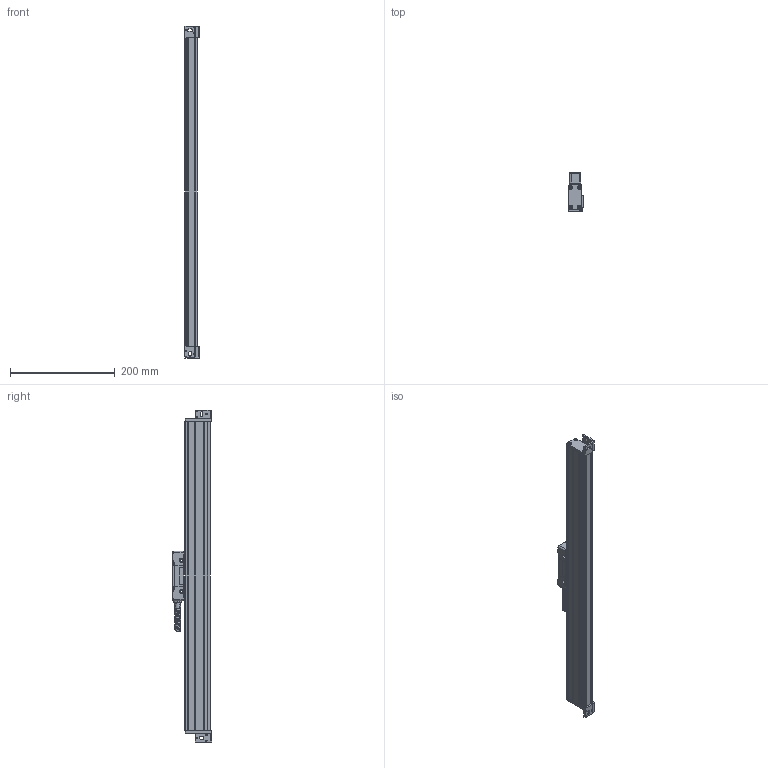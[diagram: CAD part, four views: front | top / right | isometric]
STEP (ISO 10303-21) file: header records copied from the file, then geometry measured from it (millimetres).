
FILE_DESCRIPTION (( 'STEP AP214' ), '1' );
FILE_NAME ('MLC310x0470.STEP', '2021-05-08T11:49:39', ( '' ), ( '' ), 'SwSTEP 2.0', 'SolidWorks 2014', '' );
FILE_SCHEMA (( 'AUTOMOTIVE_DESIGN' ));
Length unit declared in the file: millimetre
Products named in the file (1): MLC310x0470
Bounding box: 27 x 75.15 x 634 mm (x, y, z)
Surface area: 120490.2 mm2 (no closed solid volume)
Topology: 0 solids, 23 shells, 443 faces, 1430 edges, 1001 vertices
Faces by surface type: plane 176, cylinder 147, cone 81, bspline 31, torus 8
Entity records: 31123 total; most frequent: CARTESIAN_POINT 14059, DIRECTION 2475, ORIENTED_EDGE 2291, EDGE_CURVE 1424, VERTEX_POINT 1001, AXIS2_PLACEMENT_3D 855, LINE 765, VECTOR 765
